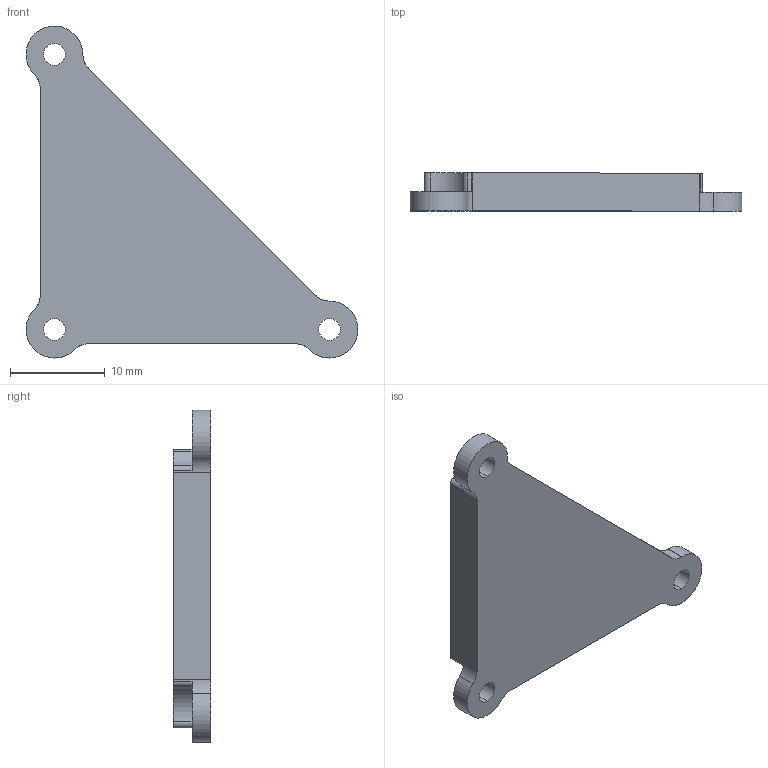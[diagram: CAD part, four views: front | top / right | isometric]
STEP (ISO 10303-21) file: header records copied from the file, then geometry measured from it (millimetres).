
FILE_DESCRIPTION (( 'STEP AP214' ), '1' );
FILE_NAME ('錨璃3.STEP', '2026-07-16T07:58:50', ( '' ), ( '' ), 'SwSTEP 2.0', 'SolidWorks 2024', '' );
FILE_SCHEMA (( 'AUTOMOTIVE_DESIGN' ));
Length unit declared in the file: millimetre
Products named in the file (1): 零件3
Bounding box: 35 x 4 x 35 mm (x, y, z)
Volume: 2261 mm3; surface area: 1686.6 mm2
Topology: 1 solids, 1 shells, 39 faces, 111 edges, 74 vertices
Faces by surface type: cylinder 31, plane 8
Entity records: 1348 total; most frequent: DIRECTION 259, CARTESIAN_POINT 225, ORIENTED_EDGE 222, EDGE_CURVE 111, AXIS2_PLACEMENT_3D 108, VERTEX_POINT 74, CIRCLE 68, EDGE_LOOP 45
